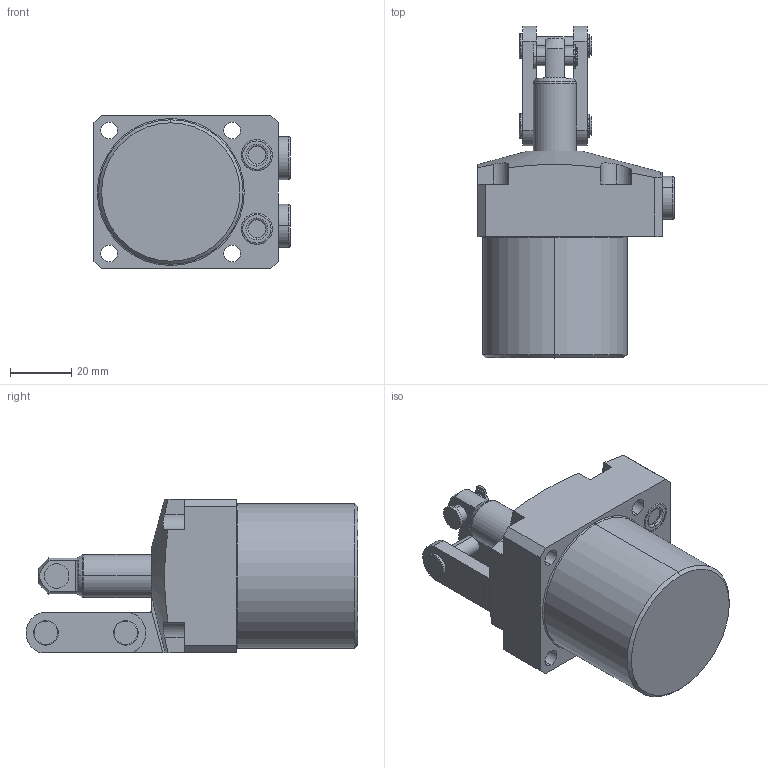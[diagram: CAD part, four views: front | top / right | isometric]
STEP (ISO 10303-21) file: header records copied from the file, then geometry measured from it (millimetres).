
FILE_DESCRIPTION(/* description */ (''),/* implementation_level */ '2;1');
FILE_NAME(/* name */ 'TPC04-R.stp',/* time_stamp */ '2025-01-05T10:31:45+08:00',/* author */ (''),/* organization */ (''),/* preprocessor_version */ 'ST-DEVELOPER v16.7',/* originating_system */ 'SIEMENS PLM Software NX 12.0',/* authorisation */ '');
FILE_SCHEMA (('AUTOMOTIVE_DESIGN { 1 0 10303 214 3 1 1 1 }'));
Length unit declared in the file: millimetre
Products named in the file (5): TPC04-R-01; TPC04-R-02; TPC04-R-03; TPC04-R-04; TPC04-R_stp
Assembly tree (5 placements, depth 2):
  TPC04-R_stp
    TPC04-R-04  x2
    TPC04-R-03
    TPC04-R-02
    TPC04-R-01
Bounding box: 63.8 x 107.97 x 50 mm (x, y, z)
Volume: 146924 mm3; surface area: 27557.3 mm2
Topology: 5 solids, 7 shells, 287 faces, 682 edges, 434 vertices
Faces by surface type: cylinder 120, plane 111, torus 34, cone 20, extrusion 2
Entity records: 8066 total; most frequent: CARTESIAN_POINT 1550, DIRECTION 1430, ORIENTED_EDGE 1272, EDGE_CURVE 636, AXIS2_PLACEMENT_3D 570, VERTEX_POINT 406, EDGE_LOOP 308, CIRCLE 301
